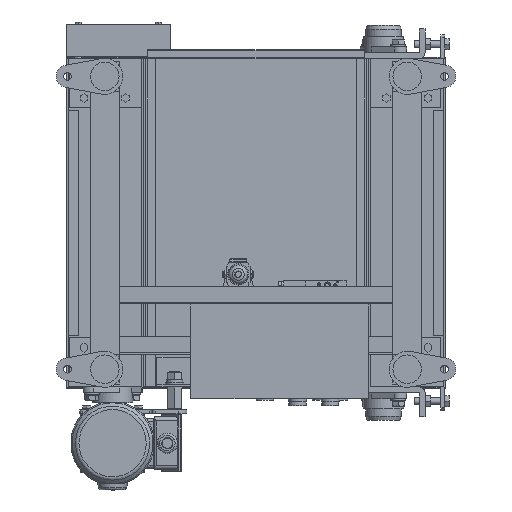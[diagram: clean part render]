
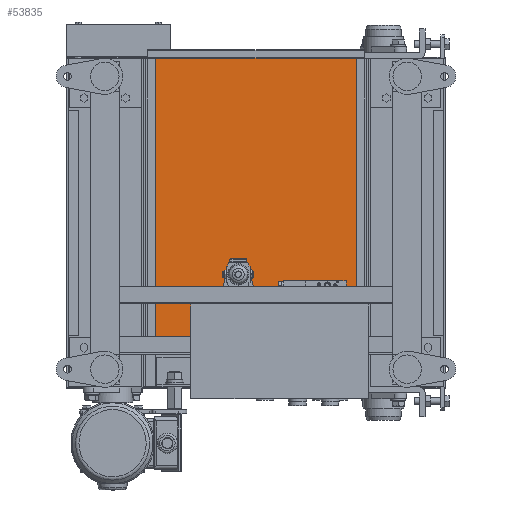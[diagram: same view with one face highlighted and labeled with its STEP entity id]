
A CAD part, front view. The second image highlights one B-rep face of the part: STEP entity #53835.
In plain terms, the highlighted planar face has unit normal (0, -1, 0).
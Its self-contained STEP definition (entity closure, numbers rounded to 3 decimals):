
#3935 = CARTESIAN_POINT ( 'NONE',  ( 137.5, -165., -211. ) ) ;
#10772 = CARTESIAN_POINT ( 'NONE',  ( 137.5, -165., -211. ) ) ;
#16380 = CARTESIAN_POINT ( 'NONE',  ( 137.5, -165., -211. ) ) ;
#17279 = ORIENTED_EDGE ( 'NONE', *, *, #78739, .F. ) ;
#22401 = VECTOR ( 'NONE', #94956, 1000. ) ;
#23893 = CARTESIAN_POINT ( 'NONE',  ( 502.5, -165., 278.2 ) ) ;
#32782 = VERTEX_POINT ( 'NONE', #119888 ) ;
#42079 = EDGE_CURVE ( 'NONE', #86844, #111000, #126984, .T. ) ;
#43424 = PLANE ( 'NONE',  #119937 ) ;
#44465 = DIRECTION ( 'NONE',  ( -1., 0., 0. ) ) ;
#51493 = EDGE_CURVE ( 'NONE', #111000, #32782, #78533, .T. ) ;
#53835 = ADVANCED_FACE ( 'NONE', ( #92023 ), #43424, .F. ) ;
#54837 = VECTOR ( 'NONE', #126670, 1000. ) ;
#78533 = LINE ( 'NONE', #16380, #54837 ) ;
#78739 = EDGE_CURVE ( 'NONE', #32782, #116724, #104318, .T. ) ;
#86281 = LINE ( 'NONE', #111908, #103725 ) ;
#86844 = VERTEX_POINT ( 'NONE', #89937 ) ;
#89937 = CARTESIAN_POINT ( 'NONE',  ( 502.5, -165., -211. ) ) ;
#90692 = DIRECTION ( 'NONE',  ( 0., 0., -1. ) ) ;
#92023 = FACE_OUTER_BOUND ( 'NONE', #111973, .T. ) ;
#94207 = DIRECTION ( 'NONE',  ( 0., 0., 1. ) ) ;
#94647 = DIRECTION ( 'NONE',  ( 0., 1., 0. ) ) ;
#94956 = DIRECTION ( 'NONE',  ( 1., 0., 0. ) ) ;
#95404 = CARTESIAN_POINT ( 'NONE',  ( 137.5, -165., 278.2 ) ) ;
#100958 = ORIENTED_EDGE ( 'NONE', *, *, #51493, .F. ) ;
#103725 = VECTOR ( 'NONE', #90692, 1000. ) ;
#104318 = LINE ( 'NONE', #95404, #22401 ) ;
#105530 = EDGE_CURVE ( 'NONE', #116724, #86844, #86281, .T. ) ;
#111000 = VERTEX_POINT ( 'NONE', #10772 ) ;
#111908 = CARTESIAN_POINT ( 'NONE',  ( 502.5, -165., -211. ) ) ;
#111973 = EDGE_LOOP ( 'NONE', ( #100958, #119787, #124013, #17279 ) ) ;
#116724 = VERTEX_POINT ( 'NONE', #23893 ) ;
#119787 = ORIENTED_EDGE ( 'NONE', *, *, #42079, .F. ) ;
#119888 = CARTESIAN_POINT ( 'NONE',  ( 137.5, -165., 278.2 ) ) ;
#119937 = AXIS2_PLACEMENT_3D ( 'NONE', #125597, #94647, #94207 ) ;
#124013 = ORIENTED_EDGE ( 'NONE', *, *, #105530, .F. ) ;
#125597 = CARTESIAN_POINT ( 'NONE',  ( 320., -165., 277. ) ) ;
#126670 = DIRECTION ( 'NONE',  ( 0., 0., 1. ) ) ;
#126984 = LINE ( 'NONE', #3935, #130149 ) ;
#130149 = VECTOR ( 'NONE', #44465, 1000. ) ;
